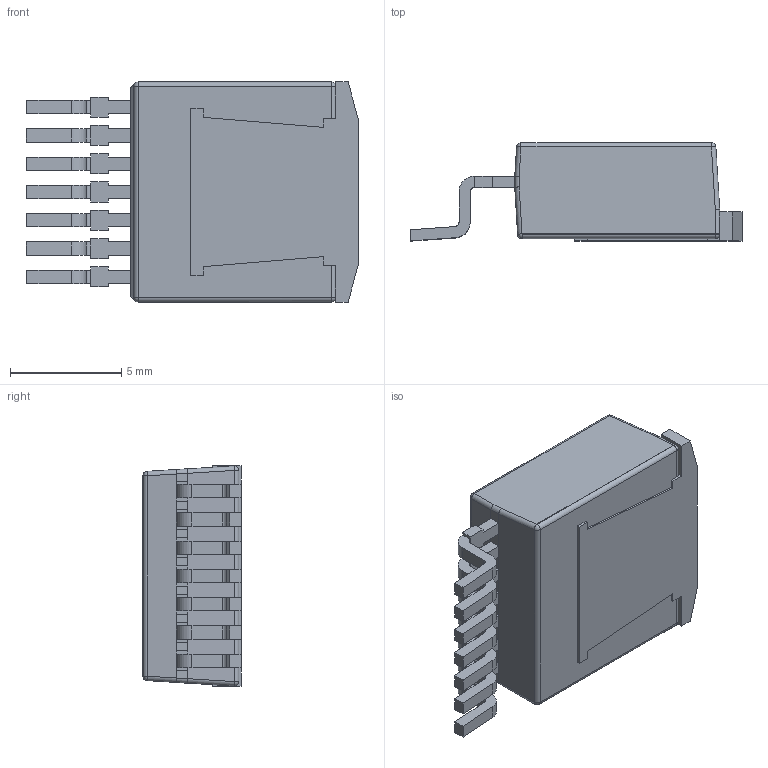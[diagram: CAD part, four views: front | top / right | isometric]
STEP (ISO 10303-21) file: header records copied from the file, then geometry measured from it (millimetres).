
FILE_DESCRIPTION (( 'STEP AP214' ), '1' );
FILE_NAME ('BTS7960B.STEP', '2022-06-14T06:46:00', ( '' ), ( '' ), 'SwSTEP 2.0', 'SolidWorks 2018', '' );
FILE_SCHEMA (( 'AUTOMOTIVE_DESIGN' ));
Length unit declared in the file: millimetre
Products named in the file (1): BTS7960B
Bounding box: 14.9 x 4.4 x 9.9 mm (x, y, z)
Volume: 405.9 mm3; surface area: 606.6 mm2
Topology: 9 solids, 9 shells, 228 faces, 580 edges, 363 vertices
Faces by surface type: plane 168, cylinder 50, sphere 10
Entity records: 6793 total; most frequent: CARTESIAN_POINT 1200, ORIENTED_EDGE 1144, DIRECTION 1109, EDGE_CURVE 572, VECTOR 469, LINE 469, VERTEX_POINT 363, AXIS2_PLACEMENT_3D 320
